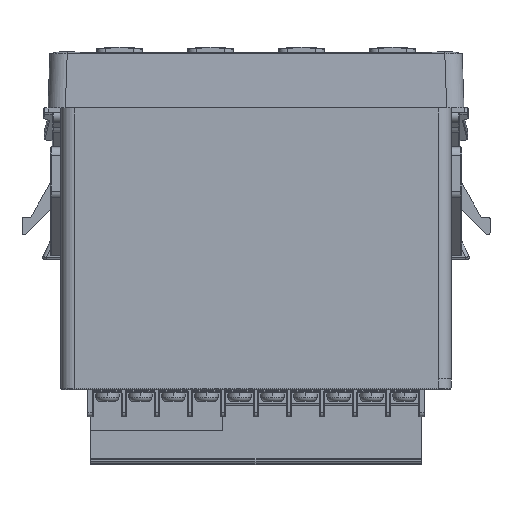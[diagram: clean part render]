
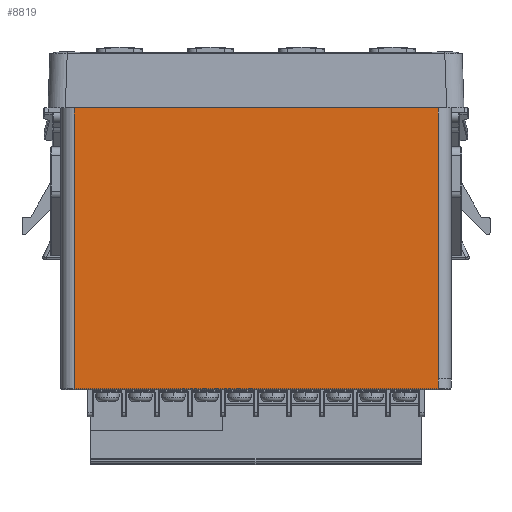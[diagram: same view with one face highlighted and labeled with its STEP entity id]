
A CAD part, front view. The second image highlights one B-rep face of the part: STEP entity #8819.
In plain terms, the highlighted planar face has unit normal (0, -1, 0).
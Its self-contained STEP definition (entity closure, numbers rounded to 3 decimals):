
#8819=ADVANCED_FACE('',(#14828),#12454,.T.);
#12454=PLANE('',#75079);
#14828=FACE_OUTER_BOUND('',#18401,.T.);
#18401=EDGE_LOOP('',(#37638,#37639,#37640,#37641,#37642,#37643,#37644,#37645,
#37646,#37647,#37648,#37649,#37650));
#22215=B_SPLINE_CURVE_WITH_KNOTS('',3,(#100533,#100534,#100535,#100536),
 .UNSPECIFIED.,.F.,.F.,(4,4),(0.,1.),.UNSPECIFIED.);
#22216=B_SPLINE_CURVE_WITH_KNOTS('',3,(#100538,#100539,#100540,#100541),
 .UNSPECIFIED.,.F.,.F.,(4,4),(0.,1.),.UNSPECIFIED.);
#23844=LINE('',#97924,#30253);
#23883=LINE('',#98049,#30292);
#24545=LINE('',#100516,#30954);
#24546=LINE('',#100518,#30955);
#24547=LINE('',#100520,#30956);
#24548=LINE('',#100522,#30957);
#24549=LINE('',#100524,#30958);
#24550=LINE('',#100526,#30959);
#24551=LINE('',#100528,#30960);
#24552=LINE('',#100529,#30961);
#24553=LINE('',#100531,#30962);
#30253=VECTOR('',#80606,1.);
#30292=VECTOR('',#80689,1.);
#30954=VECTOR('',#81519,1.);
#30955=VECTOR('',#81520,1.);
#30956=VECTOR('',#81521,1.);
#30957=VECTOR('',#81522,1.);
#30958=VECTOR('',#81523,1.);
#30959=VECTOR('',#81524,1.);
#30960=VECTOR('',#81525,1.);
#30961=VECTOR('',#81526,1.);
#30962=VECTOR('',#81527,1.);
#37638=ORIENTED_EDGE('',*,*,#63179,.F.);
#37639=ORIENTED_EDGE('',*,*,#64028,.F.);
#37640=ORIENTED_EDGE('',*,*,#64029,.F.);
#37641=ORIENTED_EDGE('',*,*,#64030,.T.);
#37642=ORIENTED_EDGE('',*,*,#64031,.F.);
#37643=ORIENTED_EDGE('',*,*,#64032,.F.);
#37644=ORIENTED_EDGE('',*,*,#64033,.F.);
#37645=ORIENTED_EDGE('',*,*,#64034,.T.);
#37646=ORIENTED_EDGE('',*,*,#63237,.F.);
#37647=ORIENTED_EDGE('',*,*,#64035,.T.);
#37648=ORIENTED_EDGE('',*,*,#64036,.T.);
#37649=ORIENTED_EDGE('',*,*,#64037,.T.);
#37650=ORIENTED_EDGE('',*,*,#64038,.F.);
#56688=VERTEX_POINT('',#97923);
#56689=VERTEX_POINT('',#97925);
#56738=VERTEX_POINT('',#98048);
#56739=VERTEX_POINT('',#98050);
#57504=VERTEX_POINT('',#100517);
#57505=VERTEX_POINT('',#100519);
#57506=VERTEX_POINT('',#100521);
#57507=VERTEX_POINT('',#100523);
#57508=VERTEX_POINT('',#100525);
#57509=VERTEX_POINT('',#100527);
#57510=VERTEX_POINT('',#100530);
#57511=VERTEX_POINT('',#100532);
#57512=VERTEX_POINT('',#100537);
#63179=EDGE_CURVE('',#56688,#56689,#23844,.T.);
#63237=EDGE_CURVE('',#56738,#56739,#23883,.T.);
#64028=EDGE_CURVE('',#57504,#56688,#24545,.T.);
#64029=EDGE_CURVE('',#57505,#57504,#24546,.T.);
#64030=EDGE_CURVE('',#57505,#57506,#24547,.T.);
#64031=EDGE_CURVE('',#57507,#57506,#24548,.T.);
#64032=EDGE_CURVE('',#57508,#57507,#24549,.T.);
#64033=EDGE_CURVE('',#57509,#57508,#24550,.T.);
#64034=EDGE_CURVE('',#57509,#56739,#24551,.T.);
#64035=EDGE_CURVE('',#56738,#57510,#24552,.T.);
#64036=EDGE_CURVE('',#57510,#57511,#24553,.T.);
#64037=EDGE_CURVE('',#57511,#57512,#22215,.T.);
#64038=EDGE_CURVE('',#56689,#57512,#22216,.T.);
#75079=AXIS2_PLACEMENT_3D('',#100542,#81528,#81529);
#80606=DIRECTION('',(1.,0.,0.));
#80689=DIRECTION('',(1.,0.,0.));
#81519=DIRECTION('',(0.,0.,-1.));
#81520=DIRECTION('',(1.,0.,0.));
#81521=DIRECTION('',(0.,0.,-1.));
#81522=DIRECTION('',(1.,0.,0.));
#81523=DIRECTION('',(0.,0.,-1.));
#81524=DIRECTION('',(1.,0.,0.));
#81525=DIRECTION('',(0.,0.,-1.));
#81526=DIRECTION('',(0.,0.,-1.));
#81527=DIRECTION('',(1.,0.,0.));
#81528=DIRECTION('',(0.,-1.,0.));
#81529=DIRECTION('',(1.,0.,0.));
#97923=CARTESIAN_POINT('',(28.,-45.,0.));
#97924=CARTESIAN_POINT('',(-45.,-45.,0.));
#97925=CARTESIAN_POINT('',(42.002,-45.,0.));
#98048=CARTESIAN_POINT('',(-42.,-45.,0.));
#98049=CARTESIAN_POINT('',(-45.,-45.,0.));
#98050=CARTESIAN_POINT('',(-28.,-45.,0.));
#100516=CARTESIAN_POINT('',(28.,-45.,0.));
#100517=CARTESIAN_POINT('',(28.,-45.,0.5));
#100518=CARTESIAN_POINT('',(42.004,-45.,0.5));
#100519=CARTESIAN_POINT('',(22.,-45.,0.5));
#100520=CARTESIAN_POINT('',(22.,-45.,0.));
#100521=CARTESIAN_POINT('',(22.,-45.,0.));
#100522=CARTESIAN_POINT('',(-45.,-45.,0.));
#100523=CARTESIAN_POINT('',(-22.,-45.,0.));
#100524=CARTESIAN_POINT('',(-22.,-45.,0.));
#100525=CARTESIAN_POINT('',(-22.,-45.,0.5));
#100526=CARTESIAN_POINT('',(42.004,-45.,0.5));
#100527=CARTESIAN_POINT('',(-28.,-45.,0.5));
#100528=CARTESIAN_POINT('',(-28.,-45.,0.));
#100529=CARTESIAN_POINT('',(-42.,-45.,0.5));
#100530=CARTESIAN_POINT('',(-42.,-45.,-64.8));
#100531=CARTESIAN_POINT('',(42.,-45.,-64.8));
#100532=CARTESIAN_POINT('',(42.,-45.,-64.8));
#100533=CARTESIAN_POINT('',(42.,-45.,-64.8));
#100534=CARTESIAN_POINT('',(42.,-45.,-64.033));
#100535=CARTESIAN_POINT('',(42.,-45.,-63.267));
#100536=CARTESIAN_POINT('',(42.,-45.,-62.5));
#100537=CARTESIAN_POINT('',(42.002,-45.,-62.5));
#100538=CARTESIAN_POINT('',(42.004,-45.,0.));
#100539=CARTESIAN_POINT('',(42.004,-45.,-20.833));
#100540=CARTESIAN_POINT('',(42.004,-45.,-41.667));
#100541=CARTESIAN_POINT('',(42.004,-45.,-62.5));
#100542=CARTESIAN_POINT('',(42.004,-45.,0.5));
